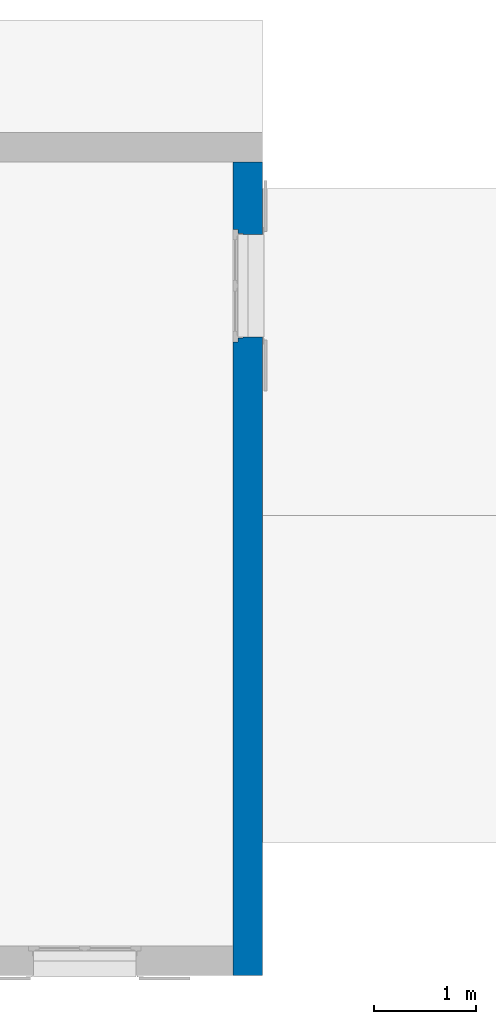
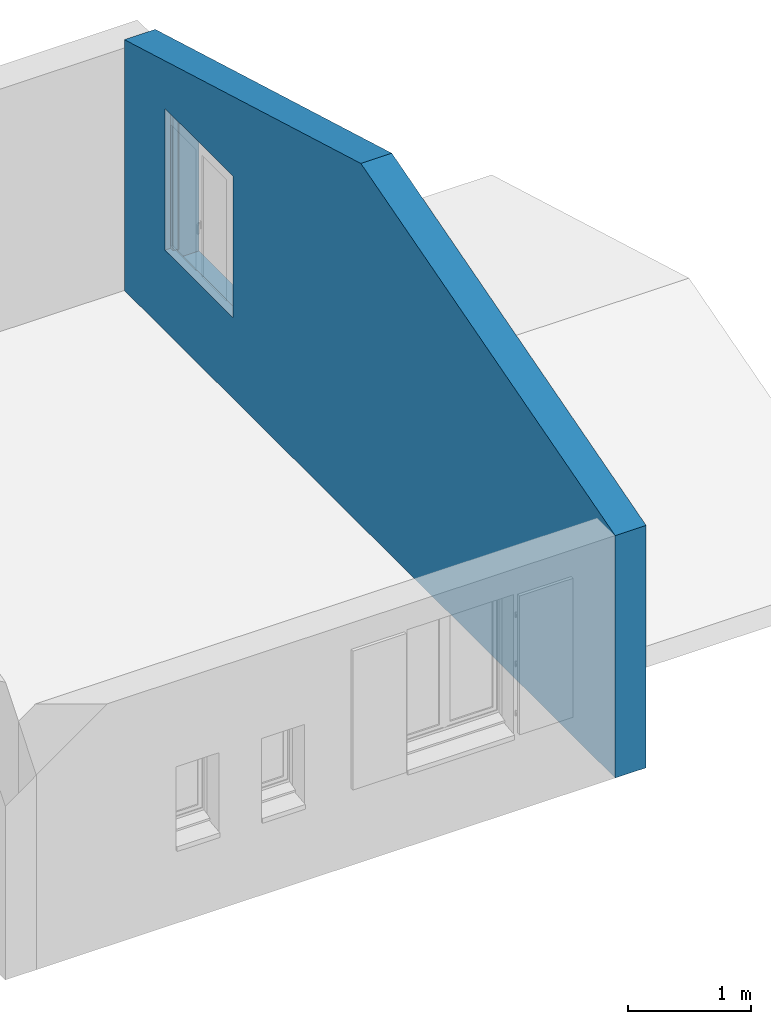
# One storey, part 5 of 6: 1 wall, 1 opening.
"""IFC2X3 building model written with IfcOpenShell, lengths in metres."""

from ifc_helpers import new_model, entity, si_unit, converted_unit, derived_unit, direction, frame, frame_2d, origin, place, context, subcontext, project, spatial, polyline, rectangle, extrude, clip, bounded_halfspace, faceted_brep, material, layer, layer_set, layer_usage, type_object, element, save


model = new_model("IFC2X3")

# Units and contexts
model_context = context("Model", 3, precision=1e-05, world=origin(), true_north=direction((6.12303176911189e-17, 1.0)))
context_of_model = context(None, 3, precision=1e-05, world=origin(), true_north=direction((6.12303176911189e-17, 1.0)))
body_context = subcontext(model_context, "Body", "Model", "MODEL_VIEW")
ifc_project = project(units=[si_unit("LENGTHUNIT", "METRE"), si_unit("AREAUNIT", "SQUARE_METRE"), si_unit("VOLUMEUNIT", "CUBIC_METRE"), converted_unit("PLANEANGLEUNIT", "DEGREE", entity("IfcRatioMeasure", 0.0174532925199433), si_unit("PLANEANGLEUNIT", "RADIAN"), dimensions=[0, 0, 0, 0, 0, 0, 0]), si_unit("MASSUNIT", "GRAM", prefix="KILO"), si_unit("TIMEUNIT", "SECOND"), si_unit("FREQUENCYUNIT", "HERTZ"), si_unit("THERMODYNAMICTEMPERATUREUNIT", "DEGREE_CELSIUS"), derived_unit("THERMALTRANSMITTANCEUNIT", [(si_unit("MASSUNIT", "GRAM", prefix="KILO"), 1), (si_unit("THERMODYNAMICTEMPERATUREUNIT", "KELVIN"), -1), (si_unit("TIMEUNIT", "SECOND"), -3)]), derived_unit("VOLUMETRICFLOWRATEUNIT", [(si_unit("LENGTHUNIT", "METRE"), 3), (si_unit("TIMEUNIT", "SECOND"), -1)]), si_unit("ELECTRICCURRENTUNIT", "AMPERE"), si_unit("ELECTRICVOLTAGEUNIT", "VOLT"), si_unit("POWERUNIT", "WATT"), si_unit("FORCEUNIT", "NEWTON", prefix="KILO"), si_unit("ILLUMINANCEUNIT", "LUX"), si_unit("LUMINOUSFLUXUNIT", "LUMEN"), si_unit("LUMINOUSINTENSITYUNIT", "CANDELA"), si_unit("PRESSUREUNIT", "PASCAL")], contexts=[model_context, context_of_model])

# Site, building, storey
site_placement = place(None, origin())
site = spatial("IfcSite", under=ifc_project, at=site_placement, Name="Surface", CompositionType="ELEMENT")
building_placement = place(site_placement, origin())
building = spatial("IfcBuilding", under=site, at=building_placement, CompositionType="ELEMENT")
storey_placement = place(building_placement, frame((0.0, 0.0, 2.64)))
storey = spatial("IfcBuildingStorey", under=building, at=storey_placement, Name="Niveau 1", CompositionType="ELEMENT", Elevation=2.64)

# Wall, opening
ifc_material_1 = material(Name="Maçonnerie - Enduit")
ifc_layer_1 = layer(ifc_material_1, 0.01)
ifc_material_2 = material(Name="Eléments de maçonnerie en béton")
ifc_layer_2 = layer(ifc_material_2, 0.2)
ifc_material_3 = material(Name="Maçonnerie - Isolant")
ifc_layer_3 = layer(ifc_material_3, 0.08)
ifc_layer_set = layer_set([ifc_layer_1, ifc_layer_2, ifc_layer_3], Name="Mur de base:Ext. Parpaing 20 + Isolant 8")
ifc_layer_usage = layer_usage(ifc_layer_set, "AXIS2", "NEGATIVE", 0.145)
wall_type = type_object("IfcWallType", Name="Mur de base:Ext. Parpaing 20 + Isolant 8", PredefinedType="STANDARD", material=ifc_layer_set)
wall_placement = place(storey_placement, frame((-2.94409160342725, 0.601417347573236, 0.0), z_axis=(0.0, 0.0, 1.0), x_axis=(0.0, -1.0, 0.0)))
wall = element("IfcWallStandardCase", 1, at=wall_placement, inside=storey, type_object=wall_type, material=ifc_layer_usage, Name="Mur de base:Ext. Parpaing 20 + Isolant 8", ObjectType="Mur de base:Ext. Parpaing 20 + Isolant 8", context=body_context, shape_type="Clipping", body=[
    clip(clip(extrude(rectangle(XDim=7.96, YDim=0.29, at=frame_2d((3.98, 1.2490009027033e-16), x_axis=(-1.0, 0.0))), origin(), (0.0, 0.0, 1.0), 3.58282471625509), bounded_halfspace(frame((0.0, -0.145, 2.48315616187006), z_axis=(-0.275637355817, 0.0, 0.961261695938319), x_axis=(0.0, -1.0, 0.0)), False, frame((0.0, -0.145, 2.48315616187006)), polyline([(0.0, 0.0), (3.835, 0.0), (3.835, 0.290000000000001), (0.0, 0.29), (0.0, 0.0)]))), bounded_halfspace(frame((3.835, -0.145, 3.58282471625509), z_axis=(0.275637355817, 0.0, 0.961261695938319), x_axis=(0.0, 1.0, 0.0)), False, frame((3.835, -0.145, 3.58282471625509)), polyline([(0.0, 0.0), (4.12499999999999, 0.0), (4.12499999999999, 0.29), (0.0, 0.29), (0.0, 0.0)]))),
])
opening_placement = place(wall_placement, frame((1.76, -0.500000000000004, 0.72), z_axis=(0.0, 0.0, 1.0), x_axis=(0.0, 1.0, 0.0)))
element("IfcOpeningElement", 2, at=opening_placement, cuts=wall, Name="Mur de base:Ext. Parpaing 20 + Isolant 8", ObjectType="Opening", context=body_context, shape_type="Brep", body=[
    faceted_brep([(0.434999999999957, 1.05, 0.0800000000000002), (0.455000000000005, 1.05, 0.0800000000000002), (0.455000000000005, 1.05, 1.43), (1.0, 1.05, 1.43), (1.0, 1.05, 0.0), (0.434999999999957, 1.05, 0.0), (0.0, 0.0500000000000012, 0.0800000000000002), (0.355000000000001, 0.0500000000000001, 0.0800000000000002), (0.355000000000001, 0.0500000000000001, 1.43), (0.0, 0.0500000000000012, 1.43), (0.0, 1.05, 0.0800000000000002), (0.355000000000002, 1.05, 0.0800000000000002), (0.355000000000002, 1.1, 0.0800000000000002), (0.405000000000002, 1.1, 0.0800000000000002), (0.405000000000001, 1.06, 0.0800000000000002), (0.455000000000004, 1.06, 0.0800000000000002), (0.434999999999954, 0.0499999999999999, 0.0800000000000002), (0.455000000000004, 0.0499999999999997, 0.0800000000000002), (0.455000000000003, 0.0399999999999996, 0.0800000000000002), (0.404999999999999, 0.0399999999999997, 0.0800000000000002), (0.404999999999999, 0.0, 0.0800000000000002), (0.355, 0.0, 0.0800000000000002), (0.0, 1.05, 1.43), (0.455000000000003, 0.0499999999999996, 1.43), (1.0, 0.049999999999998, 1.43), (1.0, 0.049999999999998, 0.0), (0.434999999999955, 0.0499999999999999, 0.0), (0.355000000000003, 1.1, 1.48), (0.405000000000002, 1.1, 1.48), (0.405000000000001, 0.0, 1.48), (0.405, 0.0399999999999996, 1.44), (0.405000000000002, 1.06, 1.44), (0.455000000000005, 1.06, 1.44), (0.455000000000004, 0.0399999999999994, 1.44), (0.355000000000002, 1.05, 1.43), (0.355000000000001, 0.0, 1.48)], [[[0, 1, 2, 3, 4, 5]], [[6, 7, 8, 9]], [[10, 11, 12, 13, 14, 15, 1, 0, 16, 17, 18, 19, 20, 21, 7, 6]], [[10, 6, 9, 22]], [[3, 2, 23, 24]], [[3, 24, 25, 4]], [[4, 25, 26, 5]], [[5, 26, 16, 0]], [[12, 27, 28, 13]], [[13, 28, 29, 20, 19, 30, 31, 14]], [[14, 31, 32, 15]], [[15, 32, 33, 18, 17, 23, 2, 1]], [[11, 34, 8, 7, 21, 35, 27, 12]], [[27, 35, 29, 28]], [[30, 33, 32, 31]], [[29, 35, 21, 20]], [[19, 18, 33, 30]], [[9, 8, 34, 22]], [[24, 23, 17, 16, 26, 25]], [[22, 34, 11, 10]]]),
])

save(model, "model.ifc")
